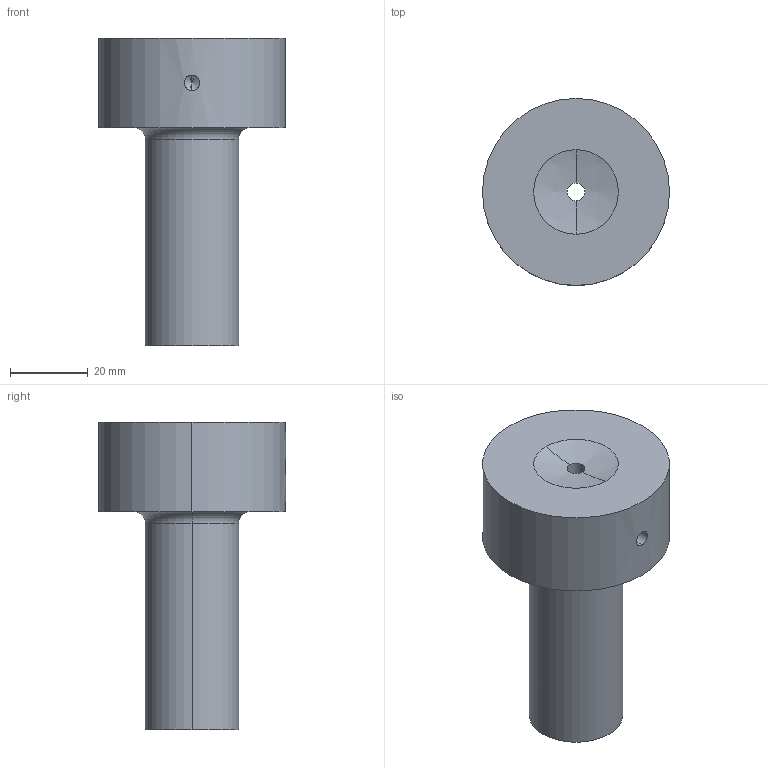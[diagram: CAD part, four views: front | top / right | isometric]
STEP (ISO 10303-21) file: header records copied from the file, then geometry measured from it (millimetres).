
FILE_DESCRIPTION (( 'STEP AP214' ), '1' );
FILE_NAME ('IMC-I2-24x56-4,5-1,5.STEP', '2023-01-16T10:21:15', ( '' ), ( '' ), 'SwSTEP 2.0', 'SolidWorks 2019', '' );
FILE_SCHEMA (( 'AUTOMOTIVE_DESIGN' ));
Length unit declared in the file: millimetre
Products named in the file (1): IMC-I2-24x56-4,5-1,5
Bounding box: 48 x 48 x 79 mm (x, y, z)
Volume: 63925.6 mm3; surface area: 12913.5 mm2
Topology: 1 solids, 1 shells, 21 faces, 48 edges, 28 vertices
Faces by surface type: cylinder 8, cone 6, plane 3, sphere 2, torus 2
Entity records: 662 total; most frequent: CARTESIAN_POINT 148, DIRECTION 114, ORIENTED_EDGE 88, AXIS2_PLACEMENT_3D 50, EDGE_CURVE 44, CIRCLE 28, VERTEX_POINT 28, EDGE_LOOP 26
